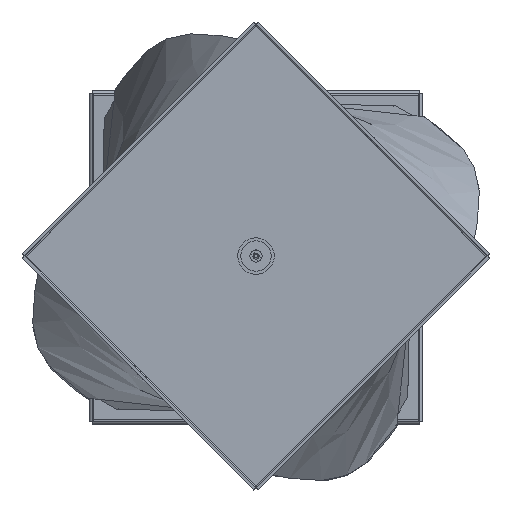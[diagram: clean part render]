
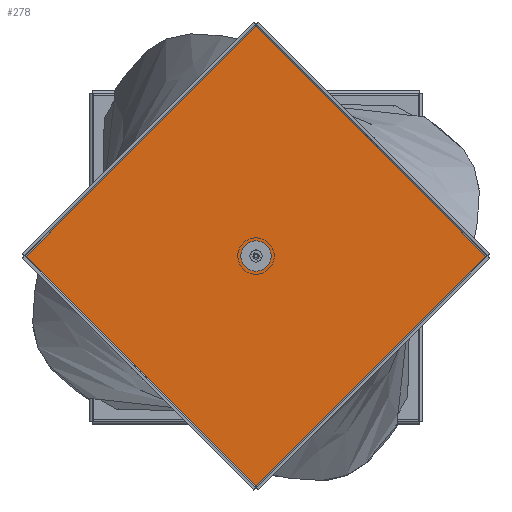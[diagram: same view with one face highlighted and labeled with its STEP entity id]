
A CAD part, top view. The second image highlights one B-rep face of the part: STEP entity #278.
In plain terms, the highlighted planar face has unit normal (0, 0, 1) as drawn and (0, 0, -1) by its records, which use the part's own axes.
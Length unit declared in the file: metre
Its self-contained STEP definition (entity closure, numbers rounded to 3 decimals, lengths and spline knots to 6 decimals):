
#278 = ADVANCED_FACE( '', ( #446, #447 ), #448, .F. );
#446 = FACE_BOUND( '', #797, .T. );
#447 = FACE_OUTER_BOUND( '', #798, .T. );
#448 = PLANE( '', #799 );
#797 = EDGE_LOOP( '', ( #1290 ) );
#798 = EDGE_LOOP( '', ( #1291, #1292, #1293, #1294 ) );
#799 = AXIS2_PLACEMENT_3D( '', #1295, #1296, #1297 );
#1290 = ORIENTED_EDGE( '', *, *, #2656, .T. );
#1291 = ORIENTED_EDGE( '', *, *, #2657, .T. );
#1292 = ORIENTED_EDGE( '', *, *, #2658, .F. );
#1293 = ORIENTED_EDGE( '', *, *, #2659, .F. );
#1294 = ORIENTED_EDGE( '', *, *, #2660, .F. );
#1295 = CARTESIAN_POINT( '', ( -0.055, -0.055, -0.001 ) );
#1296 = DIRECTION( '', ( 0., 0., 1. ) );
#1297 = DIRECTION( '', ( 1., 0., 0. ) );
#2656 = EDGE_CURVE( '', #3054, #3054, #3055, .T. );
#2657 = EDGE_CURVE( '', #3056, #3057, #3058, .T. );
#2658 = EDGE_CURVE( '', #3059, #3057, #3060, .T. );
#2659 = EDGE_CURVE( '', #3061, #3059, #3062, .T. );
#2660 = EDGE_CURVE( '', #3056, #3061, #3063, .T. );
#3054 = VERTEX_POINT( '', #3710 );
#3055 = CIRCLE( '', #3711, 0.005 );
#3056 = VERTEX_POINT( '', #3712 );
#3057 = VERTEX_POINT( '', #3713 );
#3058 = LINE( '', #3714, #3715 );
#3059 = VERTEX_POINT( '', #3716 );
#3060 = LINE( '', #3717, #3718 );
#3061 = VERTEX_POINT( '', #3719 );
#3062 = LINE( '', #3720, #3721 );
#3063 = LINE( '', #3722, #3723 );
#3710 = CARTESIAN_POINT( '', ( 0.005, 0., -0.001 ) );
#3711 = AXIS2_PLACEMENT_3D( '', #4794, #4795, #4796 );
#3712 = CARTESIAN_POINT( '', ( 0.0535, 0.0535, -0.001 ) );
#3713 = CARTESIAN_POINT( '', ( 0.0535, -0.0535, -0.001 ) );
#3714 = CARTESIAN_POINT( '', ( 0.0535, -0.0535, -0.001 ) );
#3715 = VECTOR( '', #4797, 1. );
#3716 = CARTESIAN_POINT( '', ( -0.0535, -0.0535, -0.001 ) );
#3717 = CARTESIAN_POINT( '', ( -0.0535, -0.0535, -0.001 ) );
#3718 = VECTOR( '', #4798, 1. );
#3719 = CARTESIAN_POINT( '', ( -0.0535, 0.0535, -0.001 ) );
#3720 = CARTESIAN_POINT( '', ( -0.0535, 0.0535, -0.001 ) );
#3721 = VECTOR( '', #4799, 1. );
#3722 = CARTESIAN_POINT( '', ( 0.0535, 0.0535, -0.001 ) );
#3723 = VECTOR( '', #4800, 1. );
#4794 = CARTESIAN_POINT( '', ( 0., 0., -0.001 ) );
#4795 = DIRECTION( '', ( 0., 0., 1. ) );
#4796 = DIRECTION( '', ( 1., 0., 0. ) );
#4797 = DIRECTION( '', ( 0., -1., 0. ) );
#4798 = DIRECTION( '', ( 1., 0., 0. ) );
#4799 = DIRECTION( '', ( 0., -1., 0. ) );
#4800 = DIRECTION( '', ( -1., 0., 0. ) );
